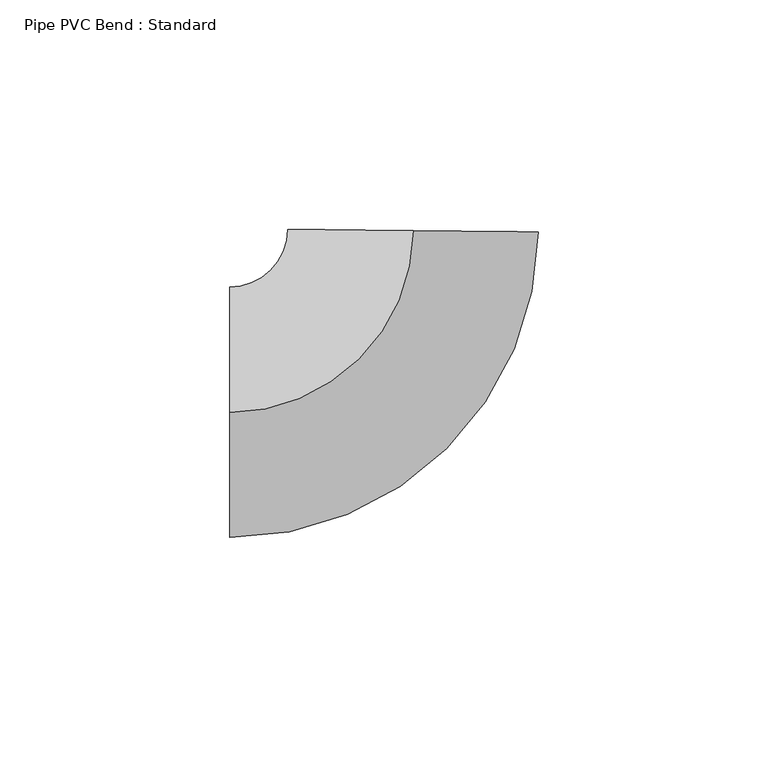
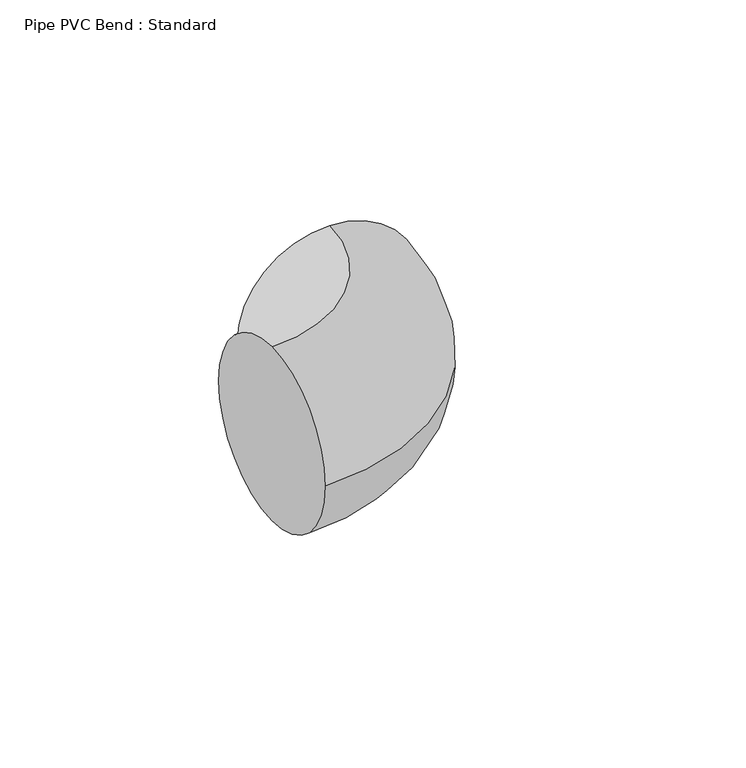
"""IFC4 building model written with IfcOpenShell, lengths in millimetres: pipe fitting geometry, Pipe PVC Bend : Standard."""

from ifc_helpers import new_model, si_unit, point, frame, origin, place, context, project, spatial, circle_curve, ellipse_curve, trimmed, source, transform, mapped, element, save
from ifc_brep_helpers import plane_surface, revolved_surface, advanced_brep


def pipe_pvc_bend_standard_4dc80f69(model_context):
    return source(origin(), model_context, "Body", "AdvancedBrep", [
        advanced_brep(
        [(-39.5904516, 0.0, 27.305), (-39.5904516, 27.305, 0.0), (-39.5904516, 0.0, -27.305), (-39.5904516, -27.305, 0.0), (0.4123782, 39.5883039, 27.305), (27.7158969, 39.3038922, 0.0), (0.4123782, 39.5883039, -27.305), (-26.8911406, 39.8727155, 0.0)],
        [
            (0, 1, circle_curve(frame((-39.5904516, 0.0, 0.0), z_axis=(-1.0, 0.0, 0.0), x_axis=(0.0, 1.0, 0.0)), 27.305)),
            (1, 2, circle_curve(frame((-39.5904516, 0.0, 0.0), z_axis=(-1.0, 0.0, 0.0), x_axis=(0.0, 1.0, 0.0)), 27.305)),
            (2, 3, circle_curve(frame((-39.5904516, 0.0, 0.0), z_axis=(-1.0, 0.0, 0.0), x_axis=(0.0, 1.0, 0.0)), 27.305)),
            (3, 0, circle_curve(frame((-39.5904516, 0.0, 0.0), z_axis=(-1.0, 0.0, 0.0), x_axis=(0.0, 1.0, 0.0)), 27.305)),
            (4, 5, circle_curve(frame((0.4123782, 39.5883039, 0.0), z_axis=(0.010416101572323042, 0.9999457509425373, 0.0), x_axis=(-0.9999457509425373, 0.010416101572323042, 0.0)), 27.305)),
            (5, 6, circle_curve(frame((0.4123782, 39.5883039, 0.0), z_axis=(0.010416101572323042, 0.9999457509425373, 0.0), x_axis=(-0.9999457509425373, 0.010416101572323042, 0.0)), 27.305)),
            (6, 7, circle_curve(frame((0.4123782, 39.5883039, 0.0), z_axis=(0.010416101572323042, 0.9999457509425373, 0.0), x_axis=(-0.9999457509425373, 0.010416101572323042, 0.0)), 27.305)),
            (7, 4, circle_curve(frame((0.4123782, 39.5883039, 0.0), z_axis=(0.010416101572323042, 0.9999457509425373, 0.0), x_axis=(-0.9999457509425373, 0.010416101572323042, 0.0)), 27.305)),
            (7, 1, circle_curve(frame((-39.5904516, 40.005, 0.0), z_axis=(0.0, 0.0, -1.0), x_axis=(0.0, -1.0, 0.0)), 12.7)),
            (0, 4, circle_curve(frame((-39.5904516, 40.005, 27.305), z_axis=(0.0, 0.0, 1.0), x_axis=(0.0, -1.0, 0.0)), 40.005)),
            (6, 2, circle_curve(frame((-39.5904516, 40.005, -27.305), z_axis=(0.0, 0.0, -1.0), x_axis=(0.0, -1.0, 0.0)), 40.005)),
            (5, 3, circle_curve(frame((-39.5904516, 40.005, 0.0), z_axis=(0.0, 0.0, -1.0), x_axis=(0.0, -1.0, 0.0)), 67.31)),
        ],
        [
            plane_surface(frame((-39.5904516, 0.0, 0.0), z_axis=(-1.0, 0.0, 0.0), x_axis=(0.0, 0.0, 1.0))),
            plane_surface(frame((0.4123782, 39.5883039, 0.0), z_axis=(0.010416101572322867, 0.9999457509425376, 0.0), x_axis=(0.0, 0.0, 1.0))),
            revolved_surface(trimmed(ellipse_curve(frame((-39.5904516, 0.0, 0.0), z_axis=(-1.0, 0.0, 0.0), x_axis=(0.0, 1.0, 0.0)), 27.305, 27.305), [point((-39.5904516, 0.0, 27.305))], [point((-39.5904516, 27.305, 0.0))], True, "CARTESIAN"), (-39.5904516, 40.005, 0.0), (0.0, 0.0, 1.0)),
            revolved_surface(trimmed(ellipse_curve(frame((-39.5904516, 0.0, 0.0), z_axis=(-1.0, 0.0, 0.0), x_axis=(0.0, 1.0, 0.0)), 27.305, 27.305), [point((-39.5904516, 27.305, 0.0))], [point((-39.5904516, 0.0, -27.305))], True, "CARTESIAN"), (-39.5904516, 40.005, 0.0), (0.0, 0.0, 1.0)),
            revolved_surface(trimmed(ellipse_curve(frame((-39.5904516, 0.0, 0.0), z_axis=(-1.0, 0.0, 0.0), x_axis=(0.0, 1.0, 0.0)), 27.305, 27.305), [point((-39.5904516, 0.0, -27.305))], [point((-39.5904516, -27.305, 0.0))], True, "CARTESIAN"), (-39.5904516, 40.005, 0.0), (0.0, 0.0, 1.0)),
            revolved_surface(trimmed(ellipse_curve(frame((-39.5904516, 0.0, 0.0), z_axis=(-1.0, 0.0, 0.0), x_axis=(0.0, 1.0, 0.0)), 27.305, 27.305), [point((-39.5904516, -27.305, 0.0))], [point((-39.5904516, 0.0, 27.305))], True, "CARTESIAN"), (-39.5904516, 40.005, 0.0), (0.0, 0.0, 1.0)),
        ],
        [
            (0, [[1, 2, 3, 4]]),
            (1, [[5, 6, 7, 8]]),
            (2, [[9, -1, 10, -8]]),
            (3, [[11, -2, -9, -7]]),
            (4, [[12, -3, -11, -6]]),
            (5, [[-10, -4, -12, -5]]),
        ],
    ),
        advanced_brep(
        [(-39.5904516, 0.0, 27.305), (-39.5904516, 27.305, 0.0), (-39.5904516, 0.0, -27.305), (-39.5904516, -27.305, 0.0), (0.4123782, 39.5883039, 27.305), (27.7158969, 39.3038922, 0.0), (0.4123782, 39.5883039, -27.305), (-26.8911406, 39.8727155, 0.0)],
        [
            (0, 1, circle_curve(frame((-39.5904516, 0.0, 0.0), z_axis=(-1.0, 0.0, 0.0), x_axis=(0.0, 1.0, 0.0)), 27.305)),
            (1, 2, circle_curve(frame((-39.5904516, 0.0, 0.0), z_axis=(-1.0, 0.0, 0.0), x_axis=(0.0, 1.0, 0.0)), 27.305)),
            (2, 3, circle_curve(frame((-39.5904516, 0.0, 0.0), z_axis=(-1.0, 0.0, 0.0), x_axis=(0.0, 1.0, 0.0)), 27.305)),
            (3, 0, circle_curve(frame((-39.5904516, 0.0, 0.0), z_axis=(-1.0, 0.0, 0.0), x_axis=(0.0, 1.0, 0.0)), 27.305)),
            (4, 5, circle_curve(frame((0.4123782, 39.5883039, 0.0), z_axis=(0.010416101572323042, 0.9999457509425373, 0.0), x_axis=(-0.9999457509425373, 0.010416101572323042, 0.0)), 27.305)),
            (5, 6, circle_curve(frame((0.4123782, 39.5883039, 0.0), z_axis=(0.010416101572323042, 0.9999457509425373, 0.0), x_axis=(-0.9999457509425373, 0.010416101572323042, 0.0)), 27.305)),
            (6, 7, circle_curve(frame((0.4123782, 39.5883039, 0.0), z_axis=(0.010416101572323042, 0.9999457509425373, 0.0), x_axis=(-0.9999457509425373, 0.010416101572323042, 0.0)), 27.305)),
            (7, 4, circle_curve(frame((0.4123782, 39.5883039, 0.0), z_axis=(0.010416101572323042, 0.9999457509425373, 0.0), x_axis=(-0.9999457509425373, 0.010416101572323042, 0.0)), 27.305)),
            (7, 1, circle_curve(frame((-39.5904516, 40.005, 0.0), z_axis=(0.0, 0.0, -1.0), x_axis=(0.0, -1.0, 0.0)), 12.7)),
            (0, 4, circle_curve(frame((-39.5904516, 40.005, 27.305), z_axis=(0.0, 0.0, 1.0), x_axis=(0.0, -1.0, 0.0)), 40.005)),
            (6, 2, circle_curve(frame((-39.5904516, 40.005, -27.305), z_axis=(0.0, 0.0, -1.0), x_axis=(0.0, -1.0, 0.0)), 40.005)),
            (5, 3, circle_curve(frame((-39.5904516, 40.005, 0.0), z_axis=(0.0, 0.0, -1.0), x_axis=(0.0, -1.0, 0.0)), 67.31)),
        ],
        [
            plane_surface(frame((-39.5904516, 0.0, 0.0), z_axis=(-1.0, 0.0, 0.0), x_axis=(0.0, 0.0, 1.0))),
            plane_surface(frame((0.4123782, 39.5883039, 0.0), z_axis=(0.010416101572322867, 0.9999457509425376, 0.0), x_axis=(0.0, 0.0, 1.0))),
            revolved_surface(trimmed(ellipse_curve(frame((-39.5904516, 0.0, 0.0), z_axis=(-1.0, 0.0, 0.0), x_axis=(0.0, 1.0, 0.0)), 27.305, 27.305), [point((-39.5904516, 0.0, 27.305))], [point((-39.5904516, 27.305, 0.0))], True, "CARTESIAN"), (-39.5904516, 40.005, 0.0), (0.0, 0.0, 1.0)),
            revolved_surface(trimmed(ellipse_curve(frame((-39.5904516, 0.0, 0.0), z_axis=(-1.0, 0.0, 0.0), x_axis=(0.0, 1.0, 0.0)), 27.305, 27.305), [point((-39.5904516, 27.305, 0.0))], [point((-39.5904516, 0.0, -27.305))], True, "CARTESIAN"), (-39.5904516, 40.005, 0.0), (0.0, 0.0, 1.0)),
            revolved_surface(trimmed(ellipse_curve(frame((-39.5904516, 0.0, 0.0), z_axis=(-1.0, 0.0, 0.0), x_axis=(0.0, 1.0, 0.0)), 27.305, 27.305), [point((-39.5904516, 0.0, -27.305))], [point((-39.5904516, -27.305, 0.0))], True, "CARTESIAN"), (-39.5904516, 40.005, 0.0), (0.0, 0.0, 1.0)),
            revolved_surface(trimmed(ellipse_curve(frame((-39.5904516, 0.0, 0.0), z_axis=(-1.0, 0.0, 0.0), x_axis=(0.0, 1.0, 0.0)), 27.305, 27.305), [point((-39.5904516, -27.305, 0.0))], [point((-39.5904516, 0.0, 27.305))], True, "CARTESIAN"), (-39.5904516, 40.005, 0.0), (0.0, 0.0, 1.0)),
        ],
        [
            (0, [[1, 2, 3, 4]]),
            (1, [[5, 6, 7, 8]]),
            (2, [[9, -1, 10, -8]]),
            (3, [[11, -2, -9, -7]]),
            (4, [[12, -3, -11, -6]]),
            (5, [[-10, -4, -12, -5]]),
        ],
    ),
    ])


if __name__ == "__main__":
    model = new_model("IFC4")
    model_context = context("Model", 3, world=origin())
    ifc_project = project(units=[si_unit("LENGTHUNIT", "METRE", prefix="MILLI")], contexts=[model_context])
    site = spatial("IfcSite", under=ifc_project)
    building = spatial("IfcBuilding", under=site)
    placement = place(None, origin())
    pipe_pvc_bend_standard_shape = pipe_pvc_bend_standard_4dc80f69(model_context)
    element("IfcPipeFitting", 1, ObjectType="Pipe PVC Bend : Standard", at=placement, inside=building, context=model_context, shape_type="MappedRepresentation", body=[
        mapped(pipe_pvc_bend_standard_shape, transform((0.0, 0.0, 0.0), x_axis=(1.0, 0.0, 0.0), y_axis=(0.0, 1.0, 0.0), z_axis=(0.0, 0.0, 1.0))),
    ])
    save(model, "model.ifc")
